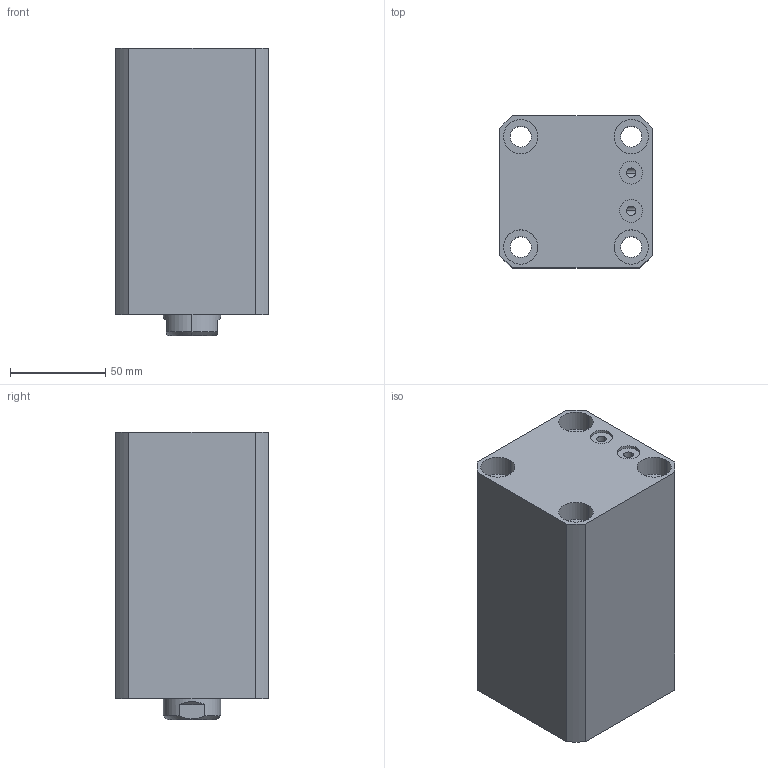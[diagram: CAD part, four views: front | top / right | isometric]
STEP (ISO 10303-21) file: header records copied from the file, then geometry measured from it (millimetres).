
FILE_DESCRIPTION (( 'STEP AP203' ), '1' );
FILE_NAME ('CHTB-SDMB50-80N.STEP', '2018-05-19T06:49:22', ( '' ), ( '' ), 'SwSTEP 2.0', 'SolidWorks 2015', '' );
FILE_SCHEMA (( 'CONFIG_CONTROL_DESIGN' ));
Length unit declared in the file: millimetre
Products named in the file (5): CHTM-SDMA50QG; 活塞杆SDMB50-80N; 掛极SDMB50-80N; M6; CHTB-SDMB50-80N
Assembly tree (5 placements, depth 2):
  CHTB-SDMB50-80N
    掛极SDMB50-80N
    活塞杆SDMB50-80N
    CHTM-SDMA50QG
    M6  x2
Bounding box: 80 x 80 x 151 mm (x, y, z)
Volume: 719967.1 mm3; surface area: 133725.1 mm2
Topology: 5 solids, 5 shells, 263 faces, 693 edges, 458 vertices
Faces by surface type: cylinder 135, plane 55, cone 31, bspline 26, torus 16
Entity records: 13963 total; most frequent: CARTESIAN_POINT 8102, ORIENTED_EDGE 1188, DIRECTION 1016, EDGE_CURVE 594, AXIS2_PLACEMENT_3D 416, VERTEX_POINT 397, EDGE_LOOP 269, FACE_OUTER_BOUND 228
